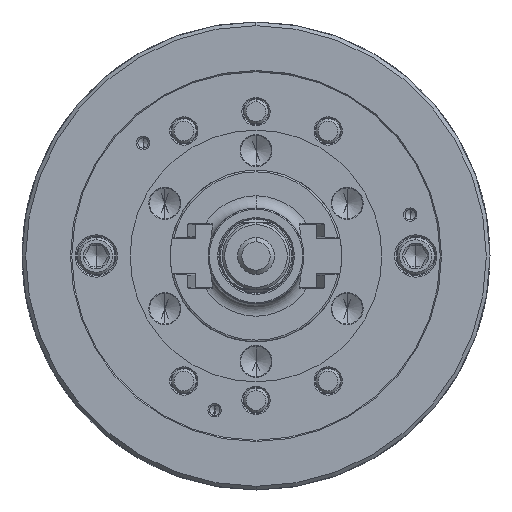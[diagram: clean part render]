
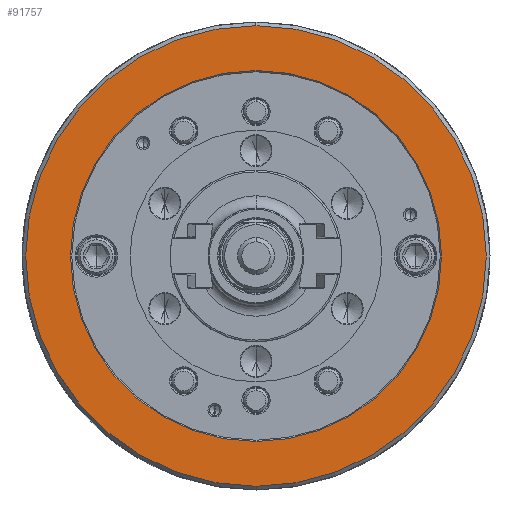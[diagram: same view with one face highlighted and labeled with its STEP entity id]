
A CAD part, left-side view. The second image highlights one B-rep face of the part: STEP entity #91757.
In plain terms, the highlighted planar face has unit normal (-1, 0, 0).
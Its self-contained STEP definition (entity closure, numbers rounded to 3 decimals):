
#146 = DIRECTION ( 'NONE',  ( 0., 0., -1. ) ) ;
#2184 = CARTESIAN_POINT ( 'NONE',  ( -114., 0., 187.5 ) ) ;
#5644 = CIRCLE ( 'NONE', #88715, 151. ) ;
#6411 = CARTESIAN_POINT ( 'NONE',  ( -114., 0., 151. ) ) ;
#7330 = DIRECTION ( 'NONE',  ( 0., 0., -1. ) ) ;
#9131 = CARTESIAN_POINT ( 'NONE',  ( -114., 0., -187.5 ) ) ;
#15762 = DIRECTION ( 'NONE',  ( 1., 0., 0. ) ) ;
#16845 = DIRECTION ( 'NONE',  ( 1., 0., 0. ) ) ;
#21456 = ORIENTED_EDGE ( 'NONE', *, *, #26556, .F. ) ;
#21675 = AXIS2_PLACEMENT_3D ( 'NONE', #37244, #16845, #146 ) ;
#23061 = ORIENTED_EDGE ( 'NONE', *, *, #66319, .T. ) ;
#23688 = CARTESIAN_POINT ( 'NONE',  ( -114., 0., -151. ) ) ;
#24299 = VERTEX_POINT ( 'NONE', #23688 ) ;
#26453 = FACE_BOUND ( 'NONE', #71207, .T. ) ;
#26556 = EDGE_CURVE ( 'NONE', #91941, #76767, #104739, .T. ) ;
#29645 = CIRCLE ( 'NONE', #31595, 187.5 ) ;
#31595 = AXIS2_PLACEMENT_3D ( 'NONE', #62834, #15762, #53543 ) ;
#33893 = AXIS2_PLACEMENT_3D ( 'NONE', #82858, #62459, #7330 ) ;
#37244 = CARTESIAN_POINT ( 'NONE',  ( -114., 0., 0. ) ) ;
#42266 = EDGE_CURVE ( 'NONE', #24299, #80095, #5644, .T. ) ;
#43669 = CARTESIAN_POINT ( 'NONE',  ( -114., 0., 0. ) ) ;
#53543 = DIRECTION ( 'NONE',  ( 0., 0., -1. ) ) ;
#57530 = EDGE_CURVE ( 'NONE', #76767, #91941, #29645, .T. ) ;
#60466 = DIRECTION ( 'NONE',  ( 0., 0., -1. ) ) ;
#62459 = DIRECTION ( 'NONE',  ( 1., 0., 0. ) ) ;
#62834 = CARTESIAN_POINT ( 'NONE',  ( -114., 0., 0. ) ) ;
#66319 = EDGE_CURVE ( 'NONE', #80095, #24299, #105448, .T. ) ;
#71207 = EDGE_LOOP ( 'NONE', ( #23061, #115307 ) ) ;
#76767 = VERTEX_POINT ( 'NONE', #2184 ) ;
#79683 = CARTESIAN_POINT ( 'NONE',  ( -114., 0., 0. ) ) ;
#80095 = VERTEX_POINT ( 'NONE', #6411 ) ;
#81447 = DIRECTION ( 'NONE',  ( 1., 0., 0. ) ) ;
#82248 = FACE_OUTER_BOUND ( 'NONE', #101731, .T. ) ;
#82858 = CARTESIAN_POINT ( 'NONE',  ( -114., -187.5, 0. ) ) ;
#88715 = AXIS2_PLACEMENT_3D ( 'NONE', #43669, #81447, #101236 ) ;
#91757 = ADVANCED_FACE ( 'NONE', ( #82248, #26453 ), #92121, .F. ) ;
#91941 = VERTEX_POINT ( 'NONE', #9131 ) ;
#92121 = PLANE ( 'NONE',  #33893 ) ;
#101236 = DIRECTION ( 'NONE',  ( 0., 0., -1. ) ) ;
#101731 = EDGE_LOOP ( 'NONE', ( #21456, #112766 ) ) ;
#104739 = CIRCLE ( 'NONE', #21675, 187.5 ) ;
#105448 = CIRCLE ( 'NONE', #111451, 151. ) ;
#111451 = AXIS2_PLACEMENT_3D ( 'NONE', #79683, #118071, #60466 ) ;
#112766 = ORIENTED_EDGE ( 'NONE', *, *, #57530, .F. ) ;
#115307 = ORIENTED_EDGE ( 'NONE', *, *, #42266, .T. ) ;
#118071 = DIRECTION ( 'NONE',  ( 1., 0., 0. ) ) ;
